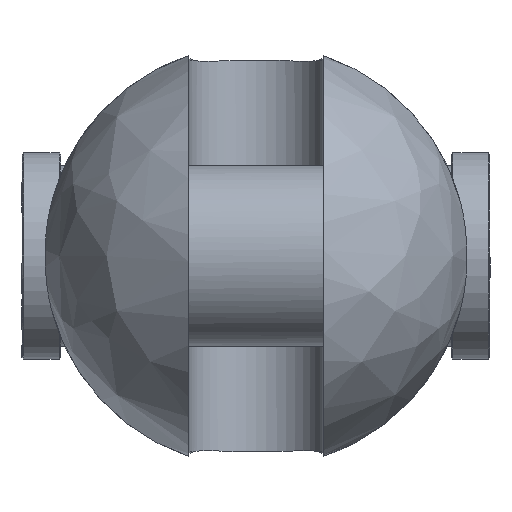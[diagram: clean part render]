
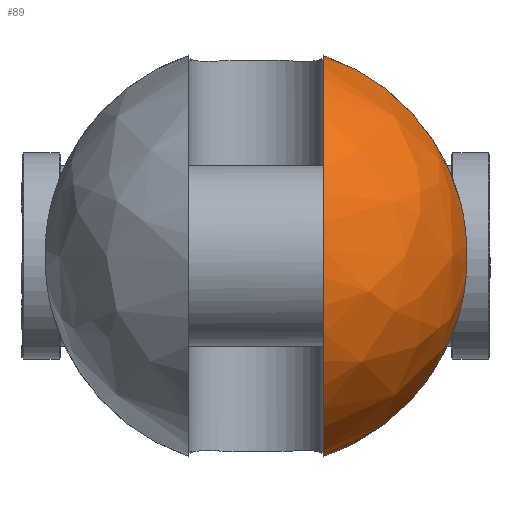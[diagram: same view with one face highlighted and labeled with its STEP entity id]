
A CAD part, left-side view. The second image highlights one B-rep face of the part: STEP entity #89.
In plain terms, the highlighted free-form (B-spline) face has degree [2, 2] with [9, 5] control points.
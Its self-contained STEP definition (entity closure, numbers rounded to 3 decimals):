
#89=ADVANCED_FACE('',(#164),#1301,.T.);
#164=FACE_OUTER_BOUND('',#249,.T.);
#249=EDGE_LOOP('',(#583,#584,#585,#586));
#583=ORIENTED_EDGE('',*,*,#807,.T.);
#584=ORIENTED_EDGE('',*,*,#833,.F.);
#585=ORIENTED_EDGE('',*,*,#845,.T.);
#586=ORIENTED_EDGE('',*,*,#825,.F.);
#807=EDGE_CURVE('',#1188,#1187,#1042,.T.);
#825=EDGE_CURVE('',#1188,#1200,#1052,.T.);
#833=EDGE_CURVE('',#1207,#1187,#1053,.T.);
#845=EDGE_CURVE('',#1207,#1200,#960,.T.);
#960=B_SPLINE_CURVE_WITH_KNOTS('',3,(#3146,#3147,#3148,#3149,#3150,#3151,
#3152,#3153,#3154,#3155,#3156,#3157,#3158,#3159),.UNSPECIFIED.,.F.,.F.,
(4,2,2,2,2,2,4),(0.,4.76,11.187,17.614,
24.04,30.467,35.227),.UNSPECIFIED.);
#1042=(
BOUNDED_CURVE()
B_SPLINE_CURVE(2,(#2902,#2903,#2904,#2905,#2906),.UNSPECIFIED.,.F.,.F.)
B_SPLINE_CURVE_WITH_KNOTS((3,2,3),(-194.912,-97.456,0.),
 .UNSPECIFIED.)
CURVE()
GEOMETRIC_REPRESENTATION_ITEM()
RATIONAL_B_SPLINE_CURVE((1.,0.707,1.,0.707,1.))
REPRESENTATION_ITEM('')
);
#1052=(
BOUNDED_CURVE()
B_SPLINE_CURVE(2,(#3016,#3017,#3018),.UNSPECIFIED.,.F.,.F.)
B_SPLINE_CURVE_WITH_KNOTS((3,3),(0.,64.69),.UNSPECIFIED.)
CURVE()
GEOMETRIC_REPRESENTATION_ITEM()
RATIONAL_B_SPLINE_CURVE((1.,0.881,1.))
REPRESENTATION_ITEM('')
);
#1053=(
BOUNDED_CURVE()
B_SPLINE_CURVE(2,(#3073,#3074,#3075),.UNSPECIFIED.,.F.,.F.)
B_SPLINE_CURVE_WITH_KNOTS((3,3),(0.,64.69),.UNSPECIFIED.)
CURVE()
GEOMETRIC_REPRESENTATION_ITEM()
RATIONAL_B_SPLINE_CURVE((1.,0.881,1.))
REPRESENTATION_ITEM('')
);
#1187=VERTEX_POINT('',#2832);
#1188=VERTEX_POINT('',#2833);
#1200=VERTEX_POINT('',#2845);
#1207=VERTEX_POINT('',#2852);
#1301=(
BOUNDED_SURFACE()
B_SPLINE_SURFACE(2,2,((#2440,#2441,#2442,#2443,#2444),(#2445,#2446,#2447,
#2448,#2449),(#2450,#2451,#2452,#2453,#2454),(#2455,#2456,#2457,#2458,#2459),
(#2460,#2461,#2462,#2463,#2464),(#2465,#2466,#2467,#2468,#2469),(#2470,
#2471,#2472,#2473,#2474),(#2475,#2476,#2477,#2478,#2479),(#2480,#2481,#2482,
#2483,#2484)),.UNSPECIFIED.,.T.,.F.,.F.)
B_SPLINE_SURFACE_WITH_KNOTS((3,2,2,2,3),(3,2,3),(0.,102.887,205.774,
308.661,411.549),(0.,102.887,205.774),
 .UNSPECIFIED.)
GEOMETRIC_REPRESENTATION_ITEM()
RATIONAL_B_SPLINE_SURFACE(((1.,0.707,1.,0.707,1.),
(0.707,0.5,0.707,0.5,0.707),(1.,0.707,
1.,0.707,1.),(0.707,0.5,0.707,0.5,0.707),
(1.,0.707,1.,0.707,1.),(0.707,0.5,0.707,
0.5,0.707),(1.,0.707,1.,0.707,1.),(0.707,
0.5,0.707,0.5,0.707),(1.,0.707,1.,0.707,
1.)))
REPRESENTATION_ITEM('')
SURFACE()
);
#2440=CARTESIAN_POINT('',(-94.,0.,0.));
#2441=CARTESIAN_POINT('',(-94.,65.5,0.));
#2442=CARTESIAN_POINT('',(-28.5,65.5,0.));
#2443=CARTESIAN_POINT('',(37.,65.5,0.));
#2444=CARTESIAN_POINT('',(37.,0.,0.));
#2445=CARTESIAN_POINT('',(-94.,0.,0.));
#2446=CARTESIAN_POINT('',(-94.,65.5,65.5));
#2447=CARTESIAN_POINT('',(-28.5,65.5,65.5));
#2448=CARTESIAN_POINT('',(37.,65.5,65.5));
#2449=CARTESIAN_POINT('',(37.,0.,0.));
#2450=CARTESIAN_POINT('',(-94.,0.,0.));
#2451=CARTESIAN_POINT('',(-94.,0.,65.5));
#2452=CARTESIAN_POINT('',(-28.5,0.,65.5));
#2453=CARTESIAN_POINT('',(37.,0.,65.5));
#2454=CARTESIAN_POINT('',(37.,0.,0.));
#2455=CARTESIAN_POINT('',(-94.,0.,0.));
#2456=CARTESIAN_POINT('',(-94.,-65.5,65.5));
#2457=CARTESIAN_POINT('',(-28.5,-65.5,65.5));
#2458=CARTESIAN_POINT('',(37.,-65.5,65.5));
#2459=CARTESIAN_POINT('',(37.,0.,0.));
#2460=CARTESIAN_POINT('',(-94.,0.,0.));
#2461=CARTESIAN_POINT('',(-94.,-65.5,0.));
#2462=CARTESIAN_POINT('',(-28.5,-65.5,0.));
#2463=CARTESIAN_POINT('',(37.,-65.5,0.));
#2464=CARTESIAN_POINT('',(37.,0.,0.));
#2465=CARTESIAN_POINT('',(-94.,0.,0.));
#2466=CARTESIAN_POINT('',(-94.,-65.5,-65.5));
#2467=CARTESIAN_POINT('',(-28.5,-65.5,-65.5));
#2468=CARTESIAN_POINT('',(37.,-65.5,-65.5));
#2469=CARTESIAN_POINT('',(37.,0.,0.));
#2470=CARTESIAN_POINT('',(-94.,0.,0.));
#2471=CARTESIAN_POINT('',(-94.,0.,-65.5));
#2472=CARTESIAN_POINT('',(-28.5,0.,-65.5));
#2473=CARTESIAN_POINT('',(37.,0.,-65.5));
#2474=CARTESIAN_POINT('',(37.,0.,0.));
#2475=CARTESIAN_POINT('',(-94.,0.,0.));
#2476=CARTESIAN_POINT('',(-94.,65.5,-65.5));
#2477=CARTESIAN_POINT('',(-28.5,65.5,-65.5));
#2478=CARTESIAN_POINT('',(37.,65.5,-65.5));
#2479=CARTESIAN_POINT('',(37.,0.,0.));
#2480=CARTESIAN_POINT('',(-94.,0.,0.));
#2481=CARTESIAN_POINT('',(-94.,65.5,0.));
#2482=CARTESIAN_POINT('',(-28.5,65.5,0.));
#2483=CARTESIAN_POINT('',(37.,65.5,0.));
#2484=CARTESIAN_POINT('',(37.,0.,0.));
#2832=CARTESIAN_POINT('',(-28.5,-21.,-62.042));
#2833=CARTESIAN_POINT('',(-28.5,-21.,62.042));
#2845=CARTESIAN_POINT('',(-28.5,-63.352,16.636));
#2852=CARTESIAN_POINT('',(-28.5,-63.352,-16.636));
#2902=CARTESIAN_POINT('',(-28.5,-21.,62.042));
#2903=CARTESIAN_POINT('',(-90.542,-21.,62.042));
#2904=CARTESIAN_POINT('',(-90.542,-21.,0.));
#2905=CARTESIAN_POINT('',(-90.542,-21.,-62.042));
#2906=CARTESIAN_POINT('',(-28.5,-21.,-62.042));
#3016=CARTESIAN_POINT('',(-28.5,-21.,62.042));
#3017=CARTESIAN_POINT('',(-28.5,-54.397,50.738));
#3018=CARTESIAN_POINT('',(-28.5,-63.352,16.636));
#3073=CARTESIAN_POINT('',(-28.5,-63.352,-16.636));
#3074=CARTESIAN_POINT('',(-28.5,-54.397,-50.738));
#3075=CARTESIAN_POINT('',(-28.5,-21.,-62.042));
#3146=CARTESIAN_POINT('',(-28.5,-63.352,-16.636));
#3147=CARTESIAN_POINT('',(-29.286,-63.706,-15.289));
#3148=CARTESIAN_POINT('',(-29.986,-64.018,-13.869));
#3149=CARTESIAN_POINT('',(-31.385,-64.638,-10.419));
#3150=CARTESIAN_POINT('',(-31.999,-64.907,-8.344));
#3151=CARTESIAN_POINT('',(-32.806,-65.261,-4.158));
#3152=CARTESIAN_POINT('',(-33.,-65.345,-2.047));
#3153=CARTESIAN_POINT('',(-33.,-65.345,2.047));
#3154=CARTESIAN_POINT('',(-32.806,-65.261,4.158));
#3155=CARTESIAN_POINT('',(-31.999,-64.907,8.344));
#3156=CARTESIAN_POINT('',(-31.385,-64.638,10.419));
#3157=CARTESIAN_POINT('',(-29.986,-64.018,13.869));
#3158=CARTESIAN_POINT('',(-29.286,-63.706,15.289));
#3159=CARTESIAN_POINT('',(-28.5,-63.352,16.636));
